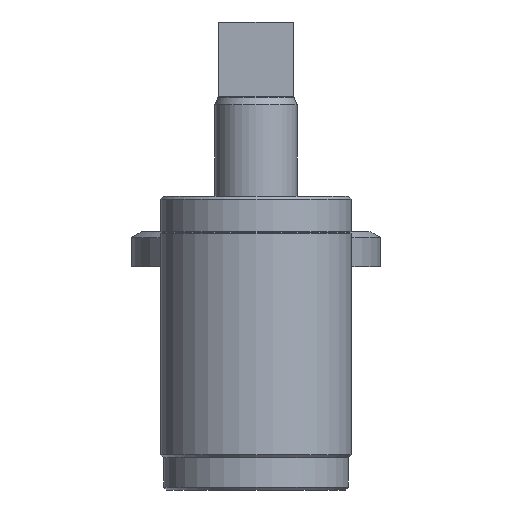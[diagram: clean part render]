
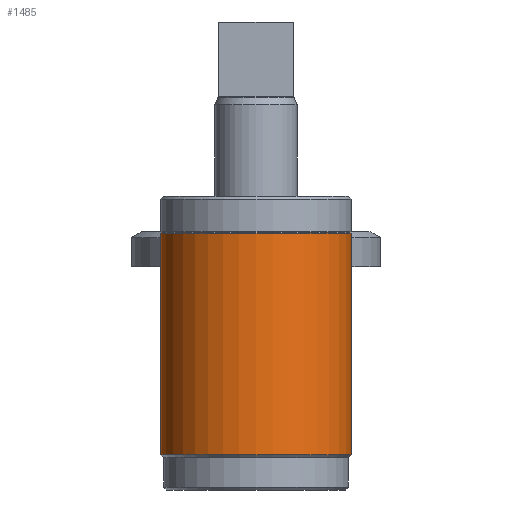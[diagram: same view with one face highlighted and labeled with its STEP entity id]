
A CAD part, left-side view. The second image highlights one B-rep face of the part: STEP entity #1485.
In plain terms, the highlighted cylindrical face has radius 32.5 mm (diameter 65 mm), a full revolution.
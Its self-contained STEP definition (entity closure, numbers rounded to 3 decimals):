
#241=CYLINDRICAL_SURFACE('',#2059,32.5);
#623=ORIENTED_EDGE('',*,*,#791,.T.);
#624=ORIENTED_EDGE('',*,*,#802,.T.);
#791=EDGE_CURVE('',#919,#919,#1001,.T.);
#802=EDGE_CURVE('',#930,#930,#1012,.T.);
#919=VERTEX_POINT('',#3068);
#930=VERTEX_POINT('',#3101);
#1001=CIRCLE('',#2036,32.5);
#1012=CIRCLE('',#2058,32.5);
#1171=EDGE_LOOP('',(#623));
#1172=EDGE_LOOP('',(#624));
#1331=FACE_BOUND('',#1171,.T.);
#1332=FACE_BOUND('',#1172,.T.);
#1485=ADVANCED_FACE('',(#1331,#1332),#241,.T.);
#2036=AXIS2_PLACEMENT_3D('',#3067,#2453,#2454);
#2058=AXIS2_PLACEMENT_3D('',#3100,#2497,#2498);
#2059=AXIS2_PLACEMENT_3D('',#3102,#2499,#2500);
#2453=DIRECTION('',(0.,0.,-1.));
#2454=DIRECTION('',(-1.,0.,0.));
#2497=DIRECTION('',(0.,0.,1.));
#2498=DIRECTION('',(1.,0.,0.));
#2499=DIRECTION('',(0.,0.,1.));
#2500=DIRECTION('',(1.,0.,0.));
#3067=CARTESIAN_POINT('',(0.,0.,87.5));
#3068=CARTESIAN_POINT('',(-32.5,0.,87.5));
#3100=CARTESIAN_POINT('',(0.,0.,12.));
#3101=CARTESIAN_POINT('',(32.5,0.,12.));
#3102=CARTESIAN_POINT('',(0.,0.,177.74));
